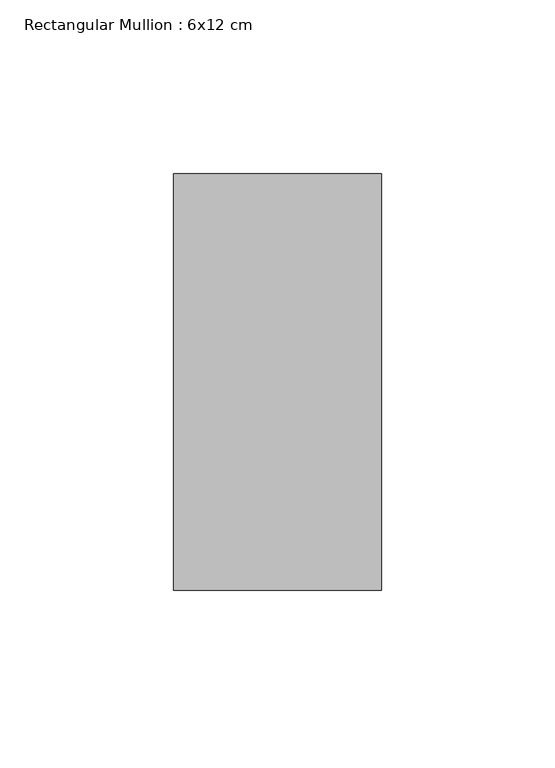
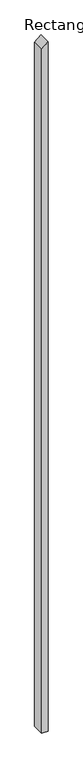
"""IFC4 building model written with IfcOpenShell, lengths in millimetres: member geometry, Rectangular Mullion : 6x12 cm."""

from ifc_helpers import new_model, si_unit, frame, origin, place, context, project, spatial, polyline, outline, extrude, source, transform, mapped, element, save


def rectangular_mullion_6x12_cm_61cf7099(model_context):
    return source(origin(), model_context, "Body", "SweptSolid", [
        extrude(outline(polyline([(-54.2281179, 30.0), (-111.0657265, -30.0), (-7195.643249, -30.0), (-7195.643249, 30.0), (-54.2281179, 30.0)])), frame((0.0, 85.0, 0.0), z_axis=(0.0, 1.0, 0.0), x_axis=(0.0, 0.0, 1.0)), (0.0, 0.0, 1.0), 120.0),
    ])


if __name__ == "__main__":
    model = new_model("IFC4")
    model_context = context("Model", 3, world=origin())
    ifc_project = project(units=[si_unit("LENGTHUNIT", "METRE", prefix="MILLI")], contexts=[model_context])
    site = spatial("IfcSite", under=ifc_project)
    building = spatial("IfcBuilding", under=site)
    placement = place(None, origin())
    rectangular_mullion_6x12_cm_shape = rectangular_mullion_6x12_cm_61cf7099(model_context)
    element("IfcMember", 1, ObjectType="Rectangular Mullion : 6x12 cm", at=placement, inside=building, context=model_context, shape_type="MappedRepresentation", body=[
        mapped(rectangular_mullion_6x12_cm_shape, transform((0.0, 0.0, 0.0), x_axis=(1.0, 0.0, 0.0), y_axis=(0.0, 1.0, 0.0), z_axis=(0.0, 0.0, 1.0))),
    ])
    save(model, "model.ifc")
